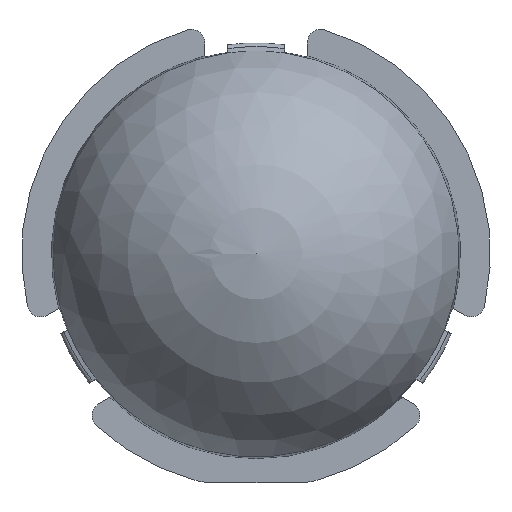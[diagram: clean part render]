
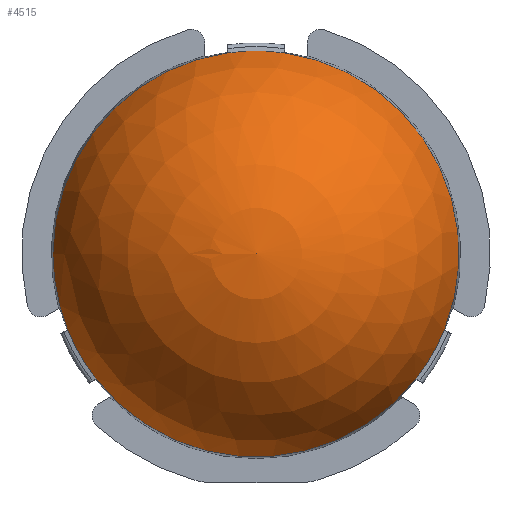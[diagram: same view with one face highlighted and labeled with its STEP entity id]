
A CAD part, top view. The second image highlights one B-rep face of the part: STEP entity #4515.
In plain terms, the highlighted spherical face has radius 9.15 mm.
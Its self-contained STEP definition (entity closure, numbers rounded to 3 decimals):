
#20=SPHERICAL_SURFACE('',#4836,9.15);
#1137=CIRCLE('',#4605,8.874);
#1140=CIRCLE('',#4608,8.874);
#1144=CIRCLE('',#4612,8.874);
#1199=CIRCLE('',#4768,8.874);
#1200=CIRCLE('',#4772,8.874);
#1202=CIRCLE('',#4778,8.874);
#2153=ORIENTED_EDGE('',*,*,#2852,.T.);
#2154=ORIENTED_EDGE('',*,*,#2512,.T.);
#2155=ORIENTED_EDGE('',*,*,#2844,.F.);
#2156=ORIENTED_EDGE('',*,*,#2508,.T.);
#2157=ORIENTED_EDGE('',*,*,#2859,.F.);
#2158=ORIENTED_EDGE('',*,*,#2516,.T.);
#2508=EDGE_CURVE('',#3160,#3158,#1137,.T.);
#2512=EDGE_CURVE('',#3164,#3163,#1140,.T.);
#2516=EDGE_CURVE('',#3168,#3167,#1144,.T.);
#2844=EDGE_CURVE('',#3160,#3163,#1199,.T.);
#2852=EDGE_CURVE('',#3167,#3164,#1200,.F.);
#2859=EDGE_CURVE('',#3168,#3158,#1202,.T.);
#3158=VERTEX_POINT('',#5898);
#3160=VERTEX_POINT('',#5901);
#3163=VERTEX_POINT('',#5926);
#3164=VERTEX_POINT('',#5928);
#3167=VERTEX_POINT('',#5950);
#3168=VERTEX_POINT('',#5952);
#3932=EDGE_LOOP('',(#2153,#2154,#2155,#2156,#2157,#2158));
#4226=FACE_BOUND('',#3932,.T.);
#4515=ADVANCED_FACE('',(#4226),#20,.T.);
#4605=AXIS2_PLACEMENT_3D('',#5900,#4886,#4887);
#4608=AXIS2_PLACEMENT_3D('',#5927,#4892,#4893);
#4612=AXIS2_PLACEMENT_3D('',#5951,#4900,#4901);
#4768=AXIS2_PLACEMENT_3D('',#6852,#5467,#5468);
#4772=AXIS2_PLACEMENT_3D('',#6871,#5480,#5481);
#4778=AXIS2_PLACEMENT_3D('',#6890,#5495,#5496);
#4836=AXIS2_PLACEMENT_3D('',#7369,#5736,#5737);
#4886=DIRECTION('',(0.,0.,1.));
#4887=DIRECTION('',(1.,0.,0.));
#4892=DIRECTION('',(0.,0.,1.));
#4893=DIRECTION('',(1.,0.,0.));
#4900=DIRECTION('',(0.,0.,1.));
#4901=DIRECTION('',(1.,0.,0.));
#5467=DIRECTION('',(0.,0.,-1.));
#5468=DIRECTION('',(0.,1.,0.));
#5480=DIRECTION('',(0.,0.,-1.));
#5481=DIRECTION('',(0.,1.,0.));
#5495=DIRECTION('',(0.,0.,-1.));
#5496=DIRECTION('',(0.,1.,0.));
#5736=DIRECTION('',(0.,0.,1.));
#5737=DIRECTION('',(-1.,0.,0.));
#5898=CARTESIAN_POINT('',(8.226,-3.329,1.664));
#5900=CARTESIAN_POINT('',(0.,0.,1.664));
#5901=CARTESIAN_POINT('',(6.996,-5.459,1.664));
#5926=CARTESIAN_POINT('',(-6.996,-5.459,1.664));
#5927=CARTESIAN_POINT('',(0.,0.,1.664));
#5928=CARTESIAN_POINT('',(-8.226,-3.329,1.664));
#5950=CARTESIAN_POINT('',(-1.23,8.789,1.664));
#5951=CARTESIAN_POINT('',(0.,0.,1.664));
#5952=CARTESIAN_POINT('',(1.23,8.789,1.664));
#6852=CARTESIAN_POINT('',(0.,0.,1.664));
#6871=CARTESIAN_POINT('',(0.,0.,1.664));
#6890=CARTESIAN_POINT('',(0.,0.,1.664));
#7369=CARTESIAN_POINT('',(0.,0.,-0.565));
